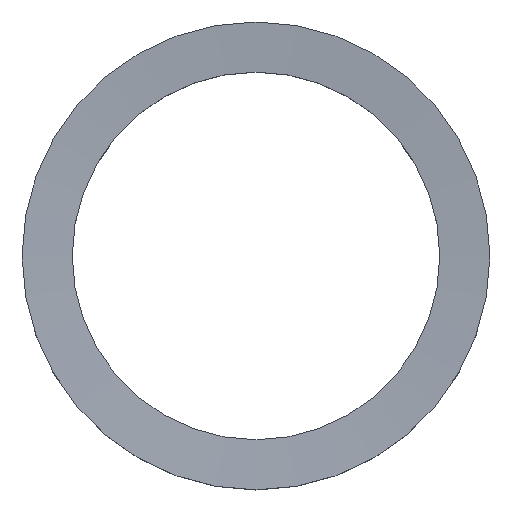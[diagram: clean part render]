
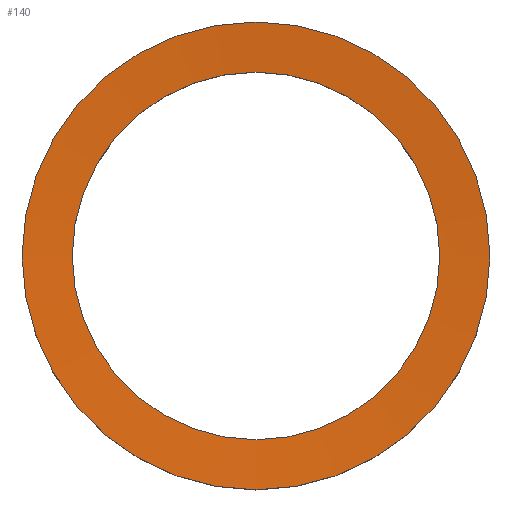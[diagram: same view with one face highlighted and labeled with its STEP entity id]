
A CAD part, top view. The second image highlights one B-rep face of the part: STEP entity #140.
In plain terms, the highlighted spherical face has radius 1000 mm.
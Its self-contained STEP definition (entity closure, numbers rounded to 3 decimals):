
#43 = CYLINDRICAL_SURFACE('',#44,55.);
#44 = AXIS2_PLACEMENT_3D('',#45,#46,#47);
#45 = CARTESIAN_POINT('',(0.,0.,1.514));
#46 = DIRECTION('',(-0.,-0.,-1.));
#47 = DIRECTION('',(1.,0.,0.));
#74 = CYLINDRICAL_SURFACE('',#75,70.);
#75 = AXIS2_PLACEMENT_3D('',#76,#77,#78);
#76 = CARTESIAN_POINT('',(0.,0.,-23.));
#77 = DIRECTION('',(0.,0.,1.));
#78 = DIRECTION('',(1.,0.,-0.));
#91 = VERTEX_POINT('',#92);
#92 = CARTESIAN_POINT('',(70.,0.,2.453));
#113 = EDGE_CURVE('',#91,#91,#114,.T.);
#114 = SURFACE_CURVE('',#115,(#120,#127),.PCURVE_S1.);
#115 = CIRCLE('',#116,70.);
#116 = AXIS2_PLACEMENT_3D('',#117,#118,#119);
#117 = CARTESIAN_POINT('',(0.,0.,2.453));
#118 = DIRECTION('',(0.,0.,1.));
#119 = DIRECTION('',(1.,0.,-0.));
#120 = PCURVE('',#74,#121);
#121 = DEFINITIONAL_REPRESENTATION('',(#122),#126);
#122 = LINE('',#123,#124);
#123 = CARTESIAN_POINT('',(0.,25.453));
#124 = VECTOR('',#125,1.);
#125 = DIRECTION('',(1.,0.));
#126 = ( GEOMETRIC_REPRESENTATION_CONTEXT(2) 
PARAMETRIC_REPRESENTATION_CONTEXT() REPRESENTATION_CONTEXT('2D SPACE',''
  ) );
#127 = PCURVE('',#128,#133);
#128 = SPHERICAL_SURFACE('',#129,1000.);
#129 = AXIS2_PLACEMENT_3D('',#130,#131,#132);
#130 = CARTESIAN_POINT('',(0.,0.,1000.));
#131 = DIRECTION('',(-0.,-0.,-1.));
#132 = DIRECTION('',(1.,0.,-0.));
#133 = DEFINITIONAL_REPRESENTATION('',(#134),#138);
#134 = LINE('',#135,#136);
#135 = CARTESIAN_POINT('',(-0.,1.501));
#136 = VECTOR('',#137,1.);
#137 = DIRECTION('',(-1.,0.));
#138 = ( GEOMETRIC_REPRESENTATION_CONTEXT(2) 
PARAMETRIC_REPRESENTATION_CONTEXT() REPRESENTATION_CONTEXT('2D SPACE',''
  ) );
#140 = ADVANCED_FACE('',(#141),#128,.F.);
#141 = FACE_BOUND('',#142,.T.);
#142 = EDGE_LOOP('',(#143,#144,#168,#190));
#143 = ORIENTED_EDGE('',*,*,#113,.T.);
#144 = ORIENTED_EDGE('',*,*,#145,.T.);
#145 = EDGE_CURVE('',#91,#146,#148,.T.);
#146 = VERTEX_POINT('',#147);
#147 = CARTESIAN_POINT('',(55.,0.,1.514));
#148 = SEAM_CURVE('',#149,(#154,#161),.PCURVE_S1.);
#149 = CIRCLE('',#150,1000.);
#150 = AXIS2_PLACEMENT_3D('',#151,#152,#153);
#151 = CARTESIAN_POINT('',(0.,0.,1000.));
#152 = DIRECTION('',(0.,1.,0.));
#153 = DIRECTION('',(0.07,0.,-0.998));
#154 = PCURVE('',#128,#155);
#155 = DEFINITIONAL_REPRESENTATION('',(#156),#160);
#156 = LINE('',#157,#158);
#157 = CARTESIAN_POINT('',(-0.,1.501));
#158 = VECTOR('',#159,1.);
#159 = DIRECTION('',(-0.,1.));
#160 = ( GEOMETRIC_REPRESENTATION_CONTEXT(2) 
PARAMETRIC_REPRESENTATION_CONTEXT() REPRESENTATION_CONTEXT('2D SPACE',''
  ) );
#161 = PCURVE('',#128,#162);
#162 = DEFINITIONAL_REPRESENTATION('',(#163),#167);
#163 = LINE('',#164,#165);
#164 = CARTESIAN_POINT('',(-6.283,1.501));
#165 = VECTOR('',#166,1.);
#166 = DIRECTION('',(-0.,1.));
#167 = ( GEOMETRIC_REPRESENTATION_CONTEXT(2) 
PARAMETRIC_REPRESENTATION_CONTEXT() REPRESENTATION_CONTEXT('2D SPACE',''
  ) );
#168 = ORIENTED_EDGE('',*,*,#169,.F.);
#169 = EDGE_CURVE('',#146,#146,#170,.T.);
#170 = SURFACE_CURVE('',#171,(#176,#183),.PCURVE_S1.);
#171 = CIRCLE('',#172,55.);
#172 = AXIS2_PLACEMENT_3D('',#173,#174,#175);
#173 = CARTESIAN_POINT('',(0.,0.,1.514));
#174 = DIRECTION('',(0.,0.,1.));
#175 = DIRECTION('',(1.,0.,-0.));
#176 = PCURVE('',#128,#177);
#177 = DEFINITIONAL_REPRESENTATION('',(#178),#182);
#178 = LINE('',#179,#180);
#179 = CARTESIAN_POINT('',(-0.,1.516));
#180 = VECTOR('',#181,1.);
#181 = DIRECTION('',(-1.,0.));
#182 = ( GEOMETRIC_REPRESENTATION_CONTEXT(2) 
PARAMETRIC_REPRESENTATION_CONTEXT() REPRESENTATION_CONTEXT('2D SPACE',''
  ) );
#183 = PCURVE('',#43,#184);
#184 = DEFINITIONAL_REPRESENTATION('',(#185),#189);
#185 = LINE('',#186,#187);
#186 = CARTESIAN_POINT('',(-0.,0.));
#187 = VECTOR('',#188,1.);
#188 = DIRECTION('',(-1.,0.));
#189 = ( GEOMETRIC_REPRESENTATION_CONTEXT(2) 
PARAMETRIC_REPRESENTATION_CONTEXT() REPRESENTATION_CONTEXT('2D SPACE',''
  ) );
#190 = ORIENTED_EDGE('',*,*,#145,.F.);
